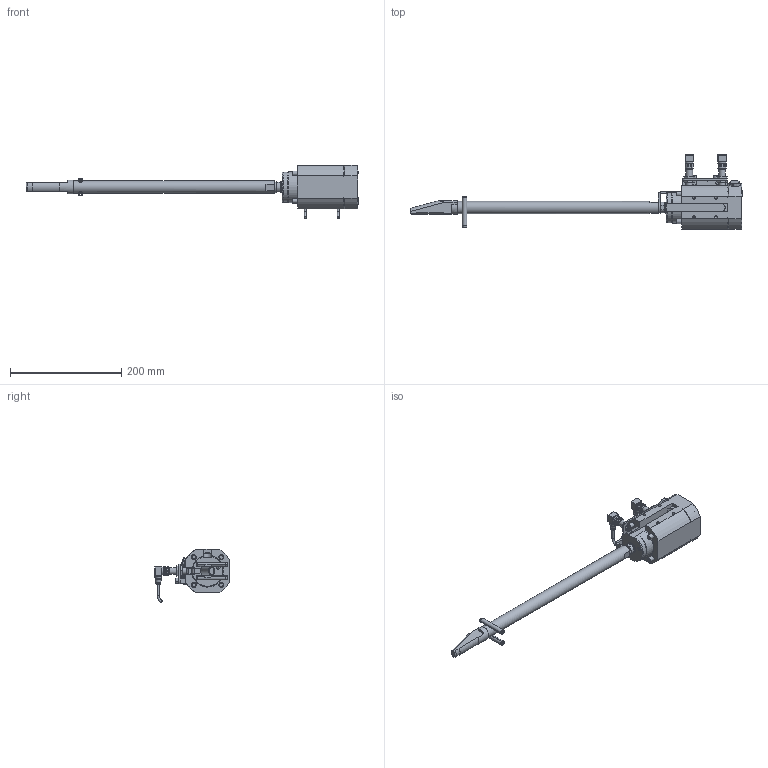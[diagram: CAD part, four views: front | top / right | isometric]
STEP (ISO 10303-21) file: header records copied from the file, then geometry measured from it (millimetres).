
FILE_DESCRIPTION(/* description */ (''),/* implementation_level */ '2;1');
FILE_NAME(/* name */ 'Z:\Standard products\1. QMC Clamping Systems\6. HECS - Integrated Wedge Clamp\HECS-40\HECS-40-3610-2 (24-07-17).stp',/* time_stamp */ '2017-07-24T14:51:15+02:00',/* author */ ('breep'),/* organization */ (''),/* preprocessor_version */ 'ST-DEVELOPER v16.1',/* originating_system */ 'Autodesk Inventor 2016',/* authorisation */ '');
FILE_SCHEMA (('AUTOMOTIVE_DESIGN { 1 0 10303 214 3 1 1 }'));
Length unit declared in the file: millimetre
Products named in the file (1): Part2
Bounding box: 596.25 x 133.96 x 95.75 mm (x, y, z)
Volume: 802546.9 mm3; surface area: 165836.2 mm2
Topology: 1 solids, 28 shells, 854 faces, 2092 edges, 1324 vertices
Faces by surface type: plane 344, cylinder 280, cone 124, torus 74, sphere 20, bspline 12
Full cylindrical faces by diameter (mm): 0.5 x8, 4 x2, 4.917 x8, 5 x7, 6 x3, 6.3 x2, 6.647 x1, 7 x5, 8 x5, 9 x6, 9.5 x2, 10 x2, 10.8 x2, 11 x3, 11.43 x2, 11.6 x2, 11.835 x3, 12 x4, 13 x4, 14 x2, 14.5 x5, 15 x1, 19.38 x1, 19.98 x2, 20 x3, 21 x2, 22 x1, 22.5 x2, 25.5 x2, 26.663 x2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
Entity records: 25125 total; most frequent: CARTESIAN_POINT 5855, DIRECTION 3888, ORIENTED_EDGE 3420, EDGE_CURVE 1709, AXIS2_PLACEMENT_3D 1556, VERTEX_POINT 1215, EDGE_LOOP 1184, STYLED_ITEM 853
